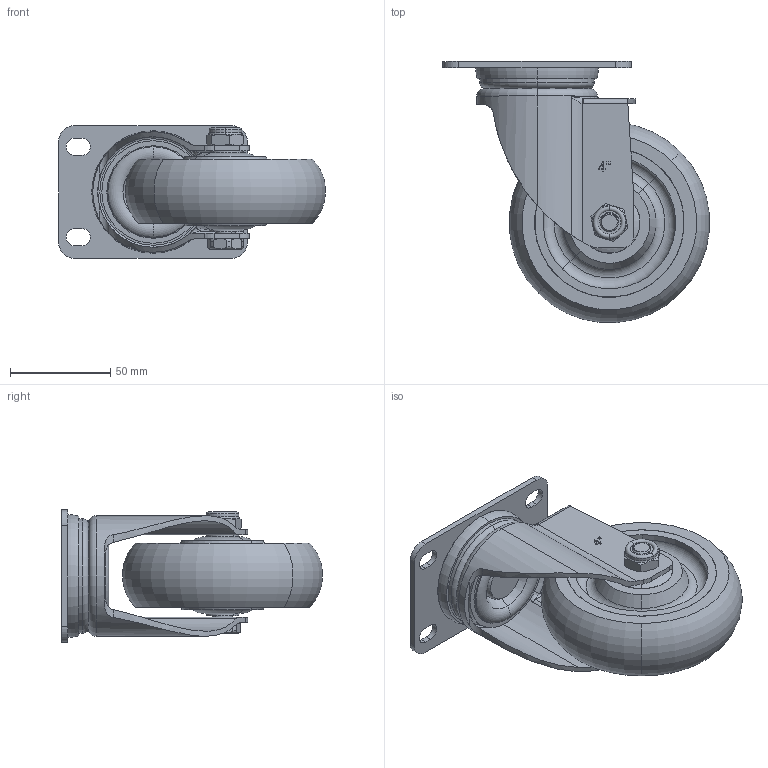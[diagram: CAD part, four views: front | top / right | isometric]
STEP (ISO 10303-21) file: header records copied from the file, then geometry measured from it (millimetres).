
FILE_DESCRIPTION (( 'STEP AP203' ), '1' );
FILE_NAME ('4寸平底万向.STEP', '2024-01-18T09:09:20', ( '微软用户' ), ( '微软中国' ), 'SwSTEP 2.0', 'SolidWorks 2008', '' );
FILE_SCHEMA (( 'CONFIG_CONTROL_DESIGN' ));
Length unit declared in the file: millimetre
Products named in the file (6): 100×32轮子_默认; 底板_默认; 4渡す菁勀砃; M10-55蹟裝; M10蹟譫; 2023-3-8  中型4寸万向支架_默认
Assembly tree (5 placements, depth 2):
  4渡す菁勀砃
    M10-55蹟裝
    M10蹟譫
    2023-3-8  中型4寸万向支架_默认
    底板_默认
    100×32轮子_默认
Bounding box: 132.75 x 129.86 x 66 mm (x, y, z)
Volume: 293720.8 mm3; surface area: 84879.5 mm2
Topology: 5 solids, 5 shells, 540 faces, 1364 edges, 881 vertices
Faces by surface type: plane 230, cylinder 126, bspline 94, torus 66, cone 24
Entity records: 23735 total; most frequent: CARTESIAN_POINT 10740, ORIENTED_EDGE 2720, DIRECTION 2316, EDGE_CURVE 1360, VERTEX_POINT 881, AXIS2_PLACEMENT_3D 810, VECTOR 696, LINE 696
